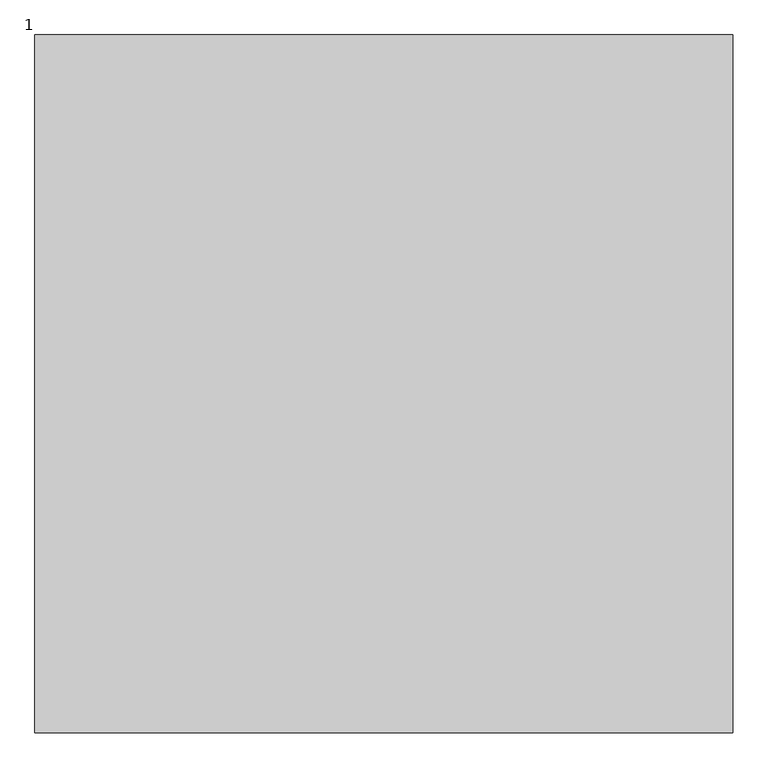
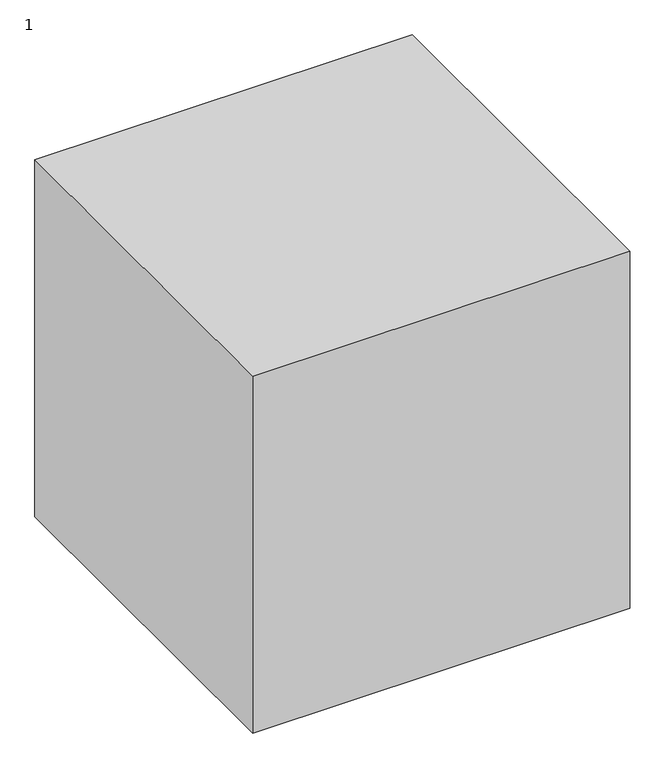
"""IFC4 building model written with IfcOpenShell, lengths in millimetres: proxy geometry, 122211111 : 1."""

from ifc_helpers import new_model, si_unit, origin, origin_with_axes, place, context, project, spatial, polyline, outline, extrude, source, transform, mapped, element, save


def proxy_1_25e3fa1a(model_context):
    return source(origin(), model_context, "Body", "SweptSolid", [
        extrude(outline(polyline([(15692.0243292, 11335.2294472), (15692.0243292, 10335.2294472), (14692.0243292, 10335.2294472), (14692.0243292, 11335.2294472), (15692.0243292, 11335.2294472)])), origin_with_axes(), (0.0, 0.0, 1.0), 1000.0),
    ])


if __name__ == "__main__":
    model = new_model("IFC4")
    model_context = context("Model", 3, world=origin())
    ifc_project = project(units=[si_unit("LENGTHUNIT", "METRE", prefix="MILLI")], contexts=[model_context])
    site = spatial("IfcSite", under=ifc_project)
    building = spatial("IfcBuilding", under=site)
    placement = place(None, origin())
    proxy_1_shape = proxy_1_25e3fa1a(model_context)
    element("IfcBuildingElementProxy", 1, Name="122211111 : 1", ObjectType="122211111 : 1", at=placement, inside=building, context=model_context, shape_type="MappedRepresentation", body=[
        mapped(proxy_1_shape, transform((0.0, 0.0, 0.0), x_axis=(1.0, 0.0, 0.0), y_axis=(0.0, 1.0, 0.0), z_axis=(0.0, 0.0, 1.0))),
    ])
    save(model, "model.ifc")
